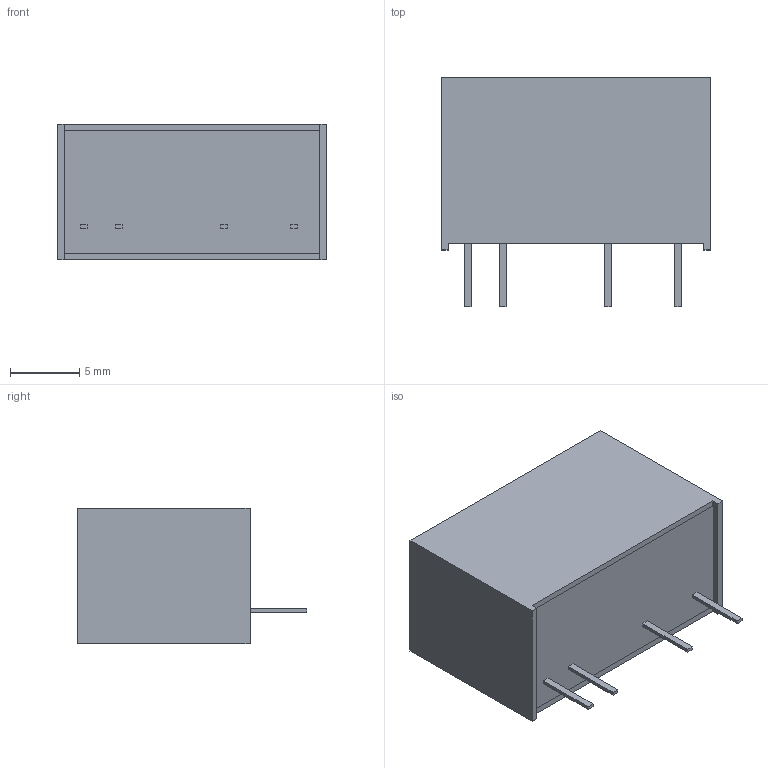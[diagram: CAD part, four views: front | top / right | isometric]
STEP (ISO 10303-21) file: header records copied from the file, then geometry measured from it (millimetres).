
FILE_DESCRIPTION(('FreeCAD Model'),'2;1');
FILE_NAME('X:/Application Engineering/4 Documentation/3 Users/1 MaS/3D Projekt/RxxPxx_S_3D_20190725.step','2019-07-25T11:14:21',('Author'),('') ,'Open CASCADE STEP processor 7.3','FreeCAD','Unknown');
FILE_SCHEMA(('AUTOMOTIVE_DESIGN { 1 0 10303 214 1 1 1 1 }'));
Length unit declared in the file: millimetre
Products named in the file (6): RxxPxx_pin7(+Vout); RxxPxx_pin2(-Vin); RxxPxx_case; RxxPxx_pin1(+Vin); RxxPxx_potting; RxxPxx_pin5(-Vout)
Bounding box: 19.5 x 16.6 x 9.8 mm (x, y, z)
Volume: 2297.3 mm3; surface area: 2736.7 mm2
Topology: 6 solids, 6 shells, 142 faces, 357 edges, 238 vertices
Faces by surface type: plane 130, cylinder 12
Entity records: 5074 total; most frequent: CARTESIAN_POINT 738, ORIENTED_EDGE 714, DIRECTION 667, EDGE_CURVE 357, LINE 333, VECTOR 333, VERTEX_POINT 238, AXIS2_PLACEMENT_3D 167
